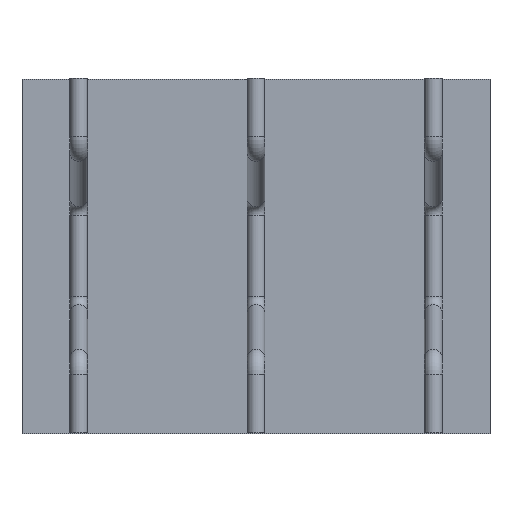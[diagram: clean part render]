
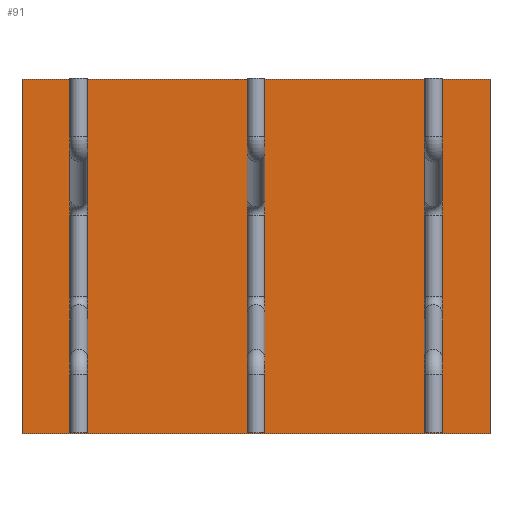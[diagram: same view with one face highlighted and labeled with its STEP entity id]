
A CAD part, top view. The second image highlights one B-rep face of the part: STEP entity #91.
In plain terms, the highlighted planar face has unit normal (0, 0, 1).
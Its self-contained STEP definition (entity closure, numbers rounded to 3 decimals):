
#52=CARTESIAN_POINT('Axis2P3D Location',(0.,0.,0.)) ;
#57=CARTESIAN_POINT('Line Origine',(0.,500.,0.)) ;
#61=CARTESIAN_POINT('Vertex',(660.,500.,0.)) ;
#63=CARTESIAN_POINT('Vertex',(-660.,500.,0.)) ;
#66=CARTESIAN_POINT('Line Origine',(-660.,0.,0.)) ;
#70=CARTESIAN_POINT('Vertex',(-660.,-500.,0.)) ;
#73=CARTESIAN_POINT('Line Origine',(0.,-500.,0.)) ;
#77=CARTESIAN_POINT('Vertex',(660.,-500.,0.)) ;
#80=CARTESIAN_POINT('Line Origine',(660.,0.,0.)) ;
#53=DIRECTION('Axis2P3D Direction',(0.,0.,1.)) ;
#54=DIRECTION('Axis2P3D XDirection',(1.,0.,0.)) ;
#58=DIRECTION('Vector Direction',(1.,0.,0.)) ;
#67=DIRECTION('Vector Direction',(0.,1.,0.)) ;
#74=DIRECTION('Vector Direction',(-1.,0.,0.)) ;
#81=DIRECTION('Vector Direction',(0.,-1.,0.)) ;
#55=AXIS2_PLACEMENT_3D('Plane Axis2P3D',#52,#53,#54) ;
#86=ORIENTED_EDGE('',*,*,#65,.T.) ;
#87=ORIENTED_EDGE('',*,*,#72,.T.) ;
#88=ORIENTED_EDGE('',*,*,#79,.T.) ;
#89=ORIENTED_EDGE('',*,*,#84,.T.) ;
#59=VECTOR('Line Direction',#58,1.) ;
#68=VECTOR('Line Direction',#67,1.) ;
#75=VECTOR('Line Direction',#74,1.) ;
#82=VECTOR('Line Direction',#81,1.) ;
#91=ADVANCED_FACE('Fill.1',(#90),#56,.T.) ;
#65=EDGE_CURVE('',#62,#64,#60,.F.) ;
#72=EDGE_CURVE('',#64,#71,#69,.F.) ;
#79=EDGE_CURVE('',#71,#78,#76,.F.) ;
#84=EDGE_CURVE('',#78,#62,#83,.F.) ;
#85=EDGE_LOOP('',(#86,#87,#88,#89)) ;
#90=FACE_OUTER_BOUND('',#85,.T.) ;
#60=LINE('Line',#57,#59) ;
#69=LINE('Line',#66,#68) ;
#76=LINE('Line',#73,#75) ;
#83=LINE('Line',#80,#82) ;
#56=PLANE('',#55) ;
#62=VERTEX_POINT('',#61) ;
#64=VERTEX_POINT('',#63) ;
#71=VERTEX_POINT('',#70) ;
#78=VERTEX_POINT('',#77) ;
